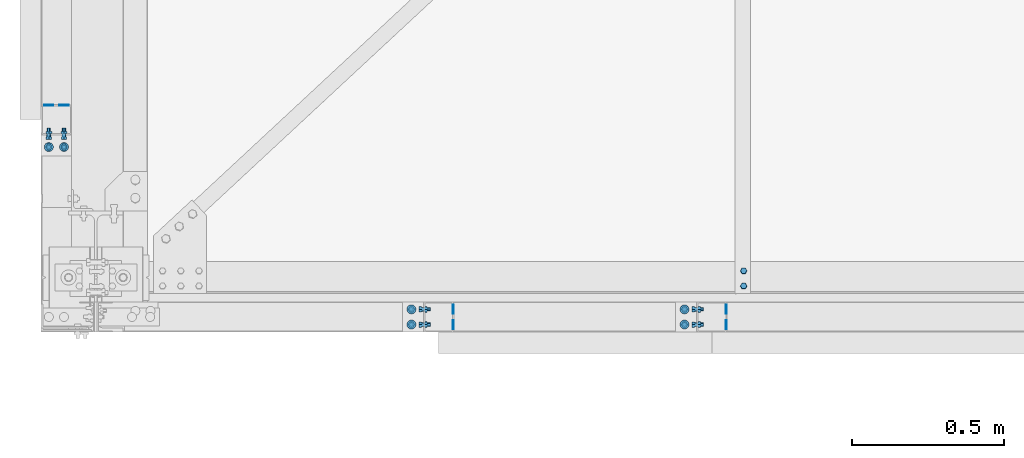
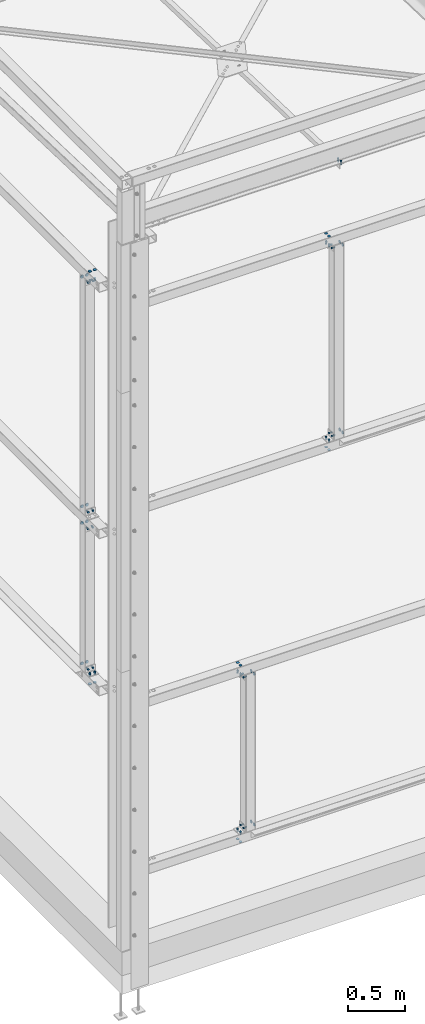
# One storey, part 205 of 362: 29 mechanical fasteners.
"""IFC2X3 building model written with IfcOpenShell, lengths in millimetres."""

from ifc_helpers import new_model, si_unit, frame, frame_2d, origin_with_axes, origin_2d_with_axis, place, context, subcontext, project, spatial, polyline, circle_curve, parameter, trimmed, segment, composite_curve, circle, outline, extrude, source, transform, mapped, material, type_object, element, save


model = new_model("IFC2X3")

# Units and contexts
model_context = context("Model", 3, precision=1e-05, world=origin_with_axes())
body_context = subcontext(model_context, "Body", "Model", "MODEL_VIEW")
ifc_project = project(units=[si_unit("LENGTHUNIT", "METRE", prefix="MILLI"), si_unit("AREAUNIT", "SQUARE_METRE"), si_unit("VOLUMEUNIT", "CUBIC_METRE"), si_unit("MASSUNIT", "GRAM", prefix="KILO"), si_unit("TIMEUNIT", "SECOND"), si_unit("PLANEANGLEUNIT", "RADIAN"), si_unit("SOLIDANGLEUNIT", "STERADIAN"), si_unit("THERMODYNAMICTEMPERATUREUNIT", "DEGREE_CELSIUS"), si_unit("LUMINOUSINTENSITYUNIT", "LUMEN")], contexts=[model_context])

# Site, building, storey
site_placement = place(None, origin_with_axes())
site = spatial("IfcSite", under=ifc_project, at=site_placement, Name="Undefined", CompositionType="ELEMENT")
building_placement = place(site_placement, origin_with_axes())
building = spatial("IfcBuilding", under=site, at=building_placement, Name="Undefined", CompositionType="ELEMENT")
storey_placement = place(building_placement, origin_with_axes())
storey = spatial("IfcBuildingStorey", under=building, at=storey_placement, Name="Undefined", CompositionType="ELEMENT", Elevation=0.0)

# Mechanical fasteners
ifc_material_1 = material(Name="6.8")
mechanical_fastener_type = type_object("IfcMechanicalFastenerType", Name="Bolt assembly")
shared_shape_1 = source(origin_with_axes(), body_context, "Body", "SweptSolid", [
    extrude(circle(Radius=15.0, at=origin_2d_with_axis()), frame((0.0, 0.0, 0.0), z_axis=(0.0, 1.0, 0.0), x_axis=(1.0, 0.0, 0.0)), (0.0, 0.0, 1.0), 4.1),
])
mechanical_fastener_1_placement = place(storey_placement, frame((-129.999996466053, 429.993382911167, 2759.99997765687), z_axis=(1.0, 0.0, 0.0), x_axis=(0.0, 1.0, 0.0)))
element("IfcMechanicalFastener", 1, at=mechanical_fastener_1_placement, inside=storey, type_object=mechanical_fastener_type, material=ifc_material_1, Name="Bolt assembly", NominalDiameter=30.0, NominalLength=4.0, context=body_context, shape_type="MappedRepresentation", body=[
    mapped(shared_shape_1, transform((0.0, 0.0, 25.0))),
    mapped(shared_shape_1, transform((0.0, 0.0, -25.0))),
])
mechanical_fastener_2_placement = place(storey_placement, frame((-129.999996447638, 429.993385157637, 7200.0000088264), z_axis=(-1.0, 0.0, 0.0), x_axis=(0.0, 1.0, 0.0)))
element("IfcMechanicalFastener", 2, at=mechanical_fastener_2_placement, inside=storey, type_object=mechanical_fastener_type, material=ifc_material_1, Name="Bolt assembly", NominalDiameter=30.0, NominalLength=4.0, context=body_context, shape_type="MappedRepresentation", body=[
    mapped(shared_shape_1, transform((0.0, 0.0, -25.0))),
    mapped(shared_shape_1, transform((0.0, 0.0, 25.0))),
])
mechanical_fastener_3_placement = place(storey_placement, frame((1180.0, -130.000008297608, 2760.0), z_axis=(0.0, -1.0, 0.0), x_axis=(0.0, 0.0, 1.0)))
element("IfcMechanicalFastener", 3, at=mechanical_fastener_3_placement, inside=storey, type_object=mechanical_fastener_type, material=ifc_material_1, Name="Bolt assembly", NominalDiameter=30.0, NominalLength=4.0, context=body_context, shape_type="MappedRepresentation", body=[
    mapped(shared_shape_1, transform((0.0, 0.0, 25.0))),
    mapped(shared_shape_1, transform((0.0, 0.0, -25.0))),
])
for number, where, z_axis, x_axis, name in (
    (4, (1180.0, -130.000008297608, 1140.0), (0.0, 1.0, 0.0), (0.0, 0.0, -1.0), "Bolt assembly"),
    (5, (2079.99476747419, -130.000008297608, 5040.0), (0.0, 1.0, 0.0), (0.0, 0.0, -1.0), "Bolt assembly"),
):
    element("IfcMechanicalFastener", number, at=place(storey_placement, frame(where, z_axis=z_axis, x_axis=x_axis)), inside=storey, type_object=mechanical_fastener_type, material=ifc_material_1, Name=name, NominalDiameter=30.0, NominalLength=4.0, context=body_context, shape_type="MappedRepresentation", body=[
        mapped(shared_shape_1, transform((0.0, 0.0, -25.0))),
        mapped(shared_shape_1, transform((0.0, 0.0, 25.0))),
    ])
mechanical_fastener_4_placement = place(storey_placement, frame((2079.99476747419, -130.000008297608, 7060.0), z_axis=(0.0, -1.0, 0.0), x_axis=(0.0, 0.0, 1.0)))
element("IfcMechanicalFastener", 6, at=mechanical_fastener_4_placement, inside=storey, type_object=mechanical_fastener_type, material=ifc_material_1, Name="Bolt assembly", NominalDiameter=30.0, NominalLength=4.0, context=body_context, shape_type="MappedRepresentation", body=[
    mapped(shared_shape_1, transform((0.0, 0.0, 25.0))),
    mapped(shared_shape_1, transform((0.0, 0.0, -25.0))),
])
ifc_material_2 = material(Name="8.8-SB-ZINGUE")
shared_shape_2 = source(origin_with_axes(), body_context, "Body", "SweptSolid", [
    extrude(circle(Radius=7.0, at=origin_2d_with_axis()), frame((0.0, -0.101674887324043, 0.0), z_axis=(0.0, 1.0, 0.0), x_axis=(1.0, 0.0, 0.0)), (0.0, 0.0, 1.0), 4.1),
    extrude(circle(Radius=7.0, at=origin_2d_with_axis()), frame((0.0, -6.90167467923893, 0.0), z_axis=(0.0, 1.0, 0.0), x_axis=(1.0, 0.0, 0.0)), (0.0, 0.0, 1.0), 7.0),
    extrude(outline(polyline([(10.39230484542, 0.0), (5.19615242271, 9.00000000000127), (-5.19615242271, 9.00000000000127), (-10.39230484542, 0.0), (-5.19615242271, -9.00000000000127), (5.19615242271, -9.00000000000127), (10.39230484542, 0.0)])), frame((0.0, -14.9216746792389, 0.0), z_axis=(0.0, 1.0, 0.0), x_axis=(1.0, 0.0, 0.0)), (0.0, 0.0, 1.0), 7.92),
    extrude(circle(Radius=6.0, at=origin_2d_with_axis()), frame((0.0, -7.00167467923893, 0.0), z_axis=(0.0, 1.0, 0.0), x_axis=(1.0, 0.0, 0.0)), (0.0, 0.0, 1.0), 30.0),
    extrude(outline(polyline([(11.5008173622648, 0.0), (5.7504086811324, 9.96000000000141), (-5.7504086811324, 9.96000000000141), (-11.5008173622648, 0.0), (-5.7504086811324, -9.96000000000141), (5.7504086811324, -9.96000000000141), (11.5008173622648, 0.0)])), frame((0.0, 3.99832511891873, 0.0), z_axis=(0.0, 1.0, 0.0), x_axis=(1.0, 0.0, 0.0)), (0.0, 0.0, 1.0), 7.92),
])
mechanical_fastener_5_placement = place(storey_placement, frame((1080.00167488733, -130.000006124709, 2759.99999995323), z_axis=(0.0, 1.0, 0.0), x_axis=(5.58310000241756e-05, -2.99999998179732e-09, 0.99999999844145)))
element("IfcMechanicalFastener", 7, at=mechanical_fastener_5_placement, inside=storey, type_object=mechanical_fastener_type, material=ifc_material_2, Name="Bolt assembly", NominalDiameter=12.0, NominalLength=30.0, context=body_context, shape_type="MappedRepresentation", body=[
    mapped(shared_shape_2, transform((0.0, 0.0, 25.0))),
    mapped(shared_shape_2, transform((0.0, 0.0, -25.0))),
])
for number, where, z_axis, x_axis, name in (
    (8, (1080.00167488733, -130.000006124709, 1140.00000004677), (0.0, -1.0, 0.0), (5.58310000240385e-05, -3.00000033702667e-09, -0.99999999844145), "Bolt assembly"),
    (9, (1979.99644236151, -130.000006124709, 5040.00000004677), (0.0, -1.0, 0.0), (5.58310000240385e-05, -3.00000033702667e-09, -0.99999999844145), "Bolt assembly"),
):
    element("IfcMechanicalFastener", number, at=place(storey_placement, frame(where, z_axis=z_axis, x_axis=x_axis)), inside=storey, type_object=mechanical_fastener_type, material=ifc_material_2, Name=name, NominalDiameter=12.0, NominalLength=30.0, context=body_context, shape_type="MappedRepresentation", body=[
        mapped(shared_shape_2, transform((0.0, 0.0, -25.0))),
        mapped(shared_shape_2, transform((0.0, 0.0, 25.0))),
    ])
mechanical_fastener_6_placement = place(storey_placement, frame((1979.99644236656, -130.000006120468, 7059.99999995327), z_axis=(0.0, 1.0, 0.0), x_axis=(5.58310000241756e-05, -2.99999998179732e-09, 0.99999999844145)))
element("IfcMechanicalFastener", 10, at=mechanical_fastener_6_placement, inside=storey, type_object=mechanical_fastener_type, material=ifc_material_2, Name="Bolt assembly", NominalDiameter=12.0, NominalLength=30.0, context=body_context, shape_type="MappedRepresentation", body=[
    mapped(shared_shape_2, transform((0.0, 0.0, 25.0))),
    mapped(shared_shape_2, transform((0.0, 0.0, -25.0))),
])
shared_shape_3 = source(origin_with_axes(), body_context, "Body", "SweptSolid", [
    extrude(circle(Radius=15.0, at=origin_2d_with_axis()), frame((0.0, -3.99999923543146, 0.0), z_axis=(0.0, 1.0, 0.0), x_axis=(1.0, 0.0, 0.0)), (0.0, 0.0, 1.0), 4.1),
])
for number, where, z_axis, x_axis, name in (
    (11, (-130.000002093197, 569.993395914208, 4589.99997857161), (1.0, 0.0, 0.0), (0.0, 0.0, -1.0), "Bolt assembly"),
    (12, (-130.000002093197, 569.993382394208, 2899.99997845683), (1.0, 0.0, 0.0), (0.0, 0.0, -1.0), "Bolt assembly"),
):
    element("IfcMechanicalFastener", number, at=place(storey_placement, frame(where, z_axis=z_axis, x_axis=x_axis)), inside=storey, type_object=mechanical_fastener_type, material=ifc_material_1, Name=name, NominalDiameter=30.0, NominalLength=4.0, context=body_context, shape_type="MappedRepresentation", body=[
        mapped(shared_shape_3, transform((0.0, 0.0, 25.0))),
        mapped(shared_shape_3, transform((0.0, 0.0, -25.0))),
    ])
for number, where, z_axis, x_axis, name in (
    (13, (-130.000002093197, 569.993382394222, 4410.00002154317), (-1.0, 0.0, 0.0), (0.0, 0.0, 1.0), "Bolt assembly"),
    (14, (-130.000002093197, 569.993384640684, 7060.00000802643), (-1.0, 0.0, 0.0), (0.0, 0.0, 1.0), "Bolt assembly"),
):
    element("IfcMechanicalFastener", number, at=place(storey_placement, frame(where, z_axis=z_axis, x_axis=x_axis)), inside=storey, type_object=mechanical_fastener_type, material=ifc_material_1, Name=name, NominalDiameter=30.0, NominalLength=4.0, context=body_context, shape_type="MappedRepresentation", body=[
        mapped(shared_shape_3, transform((0.0, 0.0, -25.0))),
        mapped(shared_shape_3, transform((0.0, 0.0, 25.0))),
    ])
mechanical_fastener_7_placement = place(storey_placement, frame((1040.000000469, -130.000008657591, 2900.0), z_axis=(0.0, -1.0, 0.0), x_axis=(1.0, 0.0, 0.0)))
element("IfcMechanicalFastener", 15, at=mechanical_fastener_7_placement, inside=storey, type_object=mechanical_fastener_type, material=ifc_material_1, Name="Bolt assembly", NominalDiameter=30.0, NominalLength=4.0, context=body_context, shape_type="MappedRepresentation", body=[
    mapped(shared_shape_3, transform((0.0, 0.0, 25.0))),
    mapped(shared_shape_3, transform((0.0, 0.0, -25.0))),
])
for number, where, z_axis, x_axis, name in (
    (16, (1040.000000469, -130.000008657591, 1000.0), (0.0, 1.0, 0.0), (1.0, 0.0, 0.0), "Bolt assembly"),
    (17, (1939.99476794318, -130.000008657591, 4900.0), (0.0, 1.0, 0.0), (1.0, 0.0, 0.0), "Bolt assembly"),
):
    element("IfcMechanicalFastener", number, at=place(storey_placement, frame(where, z_axis=z_axis, x_axis=x_axis)), inside=storey, type_object=mechanical_fastener_type, material=ifc_material_1, Name=name, NominalDiameter=30.0, NominalLength=4.0, context=body_context, shape_type="MappedRepresentation", body=[
        mapped(shared_shape_3, transform((0.0, 0.0, -25.0))),
        mapped(shared_shape_3, transform((0.0, 0.0, 25.0))),
    ])
mechanical_fastener_8_placement = place(storey_placement, frame((1939.99476794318, -130.000008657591, 7200.0), z_axis=(0.0, -1.0, 0.0), x_axis=(1.0, 0.0, 0.0)))
element("IfcMechanicalFastener", 18, at=mechanical_fastener_8_placement, inside=storey, type_object=mechanical_fastener_type, material=ifc_material_1, Name="Bolt assembly", NominalDiameter=30.0, NominalLength=4.0, context=body_context, shape_type="MappedRepresentation", body=[
    mapped(shared_shape_3, transform((0.0, 0.0, 25.0))),
    mapped(shared_shape_3, transform((0.0, 0.0, -25.0))),
])
shared_shape_4 = source(origin_with_axes(), body_context, "Body", "SweptSolid", [
    extrude(circle(Radius=7.0, at=origin_2d_with_axis()), frame((0.0, -0.100011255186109, 0.0), z_axis=(0.0, 1.0, 0.0), x_axis=(1.0, 0.0, 0.0)), (0.0, 0.0, 1.0), 4.1),
    extrude(circle(Radius=7.0, at=origin_2d_with_axis()), frame((0.0, -6.9, 0.0), z_axis=(0.0, 1.0, 0.0), x_axis=(1.0, 0.0, 0.0)), (0.0, 0.0, 1.0), 7.0),
    extrude(outline(polyline([(10.39230484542, 0.0), (5.19615242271, 9.00000000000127), (-5.19615242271, 9.00000000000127), (-10.39230484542, 0.0), (-5.19615242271, -9.00000000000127), (5.19615242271, -9.00000000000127), (10.39230484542, 0.0)])), frame((0.0, -14.92, 0.0), z_axis=(0.0, 1.0, 0.0), x_axis=(1.0, 0.0, 0.0)), (0.0, 0.0, 1.0), 7.92),
    extrude(circle(Radius=6.0, at=origin_2d_with_axis()), frame((0.0, -7.0, 0.0), z_axis=(0.0, 1.0, 0.0), x_axis=(1.0, 0.0, 0.0)), (0.0, 0.0, 1.0), 30.0),
    extrude(outline(polyline([(11.5008173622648, 0.0), (5.7504086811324, 9.96000000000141), (-5.7504086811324, 9.96000000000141), (-11.5008173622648, 0.0), (-5.7504086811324, -9.96000000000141), (5.7504086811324, -9.96000000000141), (11.5008173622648, 0.0)])), frame((0.0, 4.00000005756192, 0.0), z_axis=(0.0, 1.0, 0.0), x_axis=(1.0, 0.0, 0.0)), (0.0, 0.0, 1.0), 7.92),
])
for number, where, z_axis, x_axis, name in (
    (19, (-130.00000071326, 469.99339591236, 4589.99997857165), (1.0, 0.0, 0.0), (0.0, 0.0, -1.0), "Bolt assembly"),
    (20, (-130.00000071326, 469.99338239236, 2899.99997845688), (1.0, 0.0, 0.0), (0.0, 0.0, -1.0), "Bolt assembly"),
):
    element("IfcMechanicalFastener", number, at=place(storey_placement, frame(where, z_axis=z_axis, x_axis=x_axis)), inside=storey, type_object=mechanical_fastener_type, material=ifc_material_2, Name=name, NominalDiameter=12.0, NominalLength=30.0, context=body_context, shape_type="MappedRepresentation", body=[
        mapped(shared_shape_4, transform((0.0, 0.0, 25.0))),
        mapped(shared_shape_4, transform((0.0, 0.0, -25.0))),
    ])
for number, where, z_axis, x_axis, name in (
    (21, (-130.000000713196, 469.993382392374, 4410.00002154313), (-1.0, 0.0, 0.0), (0.0, 0.0, 1.0), "Bolt assembly"),
    (22, (-130.000000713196, 469.993384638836, 7060.00000802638), (-1.0, 0.0, 0.0), (0.0, 0.0, 1.0), "Bolt assembly"),
):
    element("IfcMechanicalFastener", number, at=place(storey_placement, frame(where, z_axis=z_axis, x_axis=x_axis)), inside=storey, type_object=mechanical_fastener_type, material=ifc_material_2, Name=name, NominalDiameter=12.0, NominalLength=30.0, context=body_context, shape_type="MappedRepresentation", body=[
        mapped(shared_shape_4, transform((0.0, 0.0, -25.0))),
        mapped(shared_shape_4, transform((0.0, 0.0, 25.0))),
    ])
mechanical_fastener_9_placement = place(storey_placement, frame((1039.999999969, -130.000007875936, 2800.0), z_axis=(0.0, -1.0, 0.0), x_axis=(1.0, 0.0, 0.0)))
element("IfcMechanicalFastener", 23, at=mechanical_fastener_9_placement, inside=storey, type_object=mechanical_fastener_type, material=ifc_material_2, Name="Bolt assembly", NominalDiameter=12.0, NominalLength=30.0, context=body_context, shape_type="MappedRepresentation", body=[
    mapped(shared_shape_4, transform((0.0, 0.0, 25.0))),
    mapped(shared_shape_4, transform((0.0, 0.0, -25.0))),
])
for number, where, z_axis, x_axis, name in (
    (24, (1039.999999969, -130.000007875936, 1100.0), (0.0, 1.0, 0.0), (1.0, 0.0, 0.0), "Bolt assembly"),
    (25, (1939.99476744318, -130.000007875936, 5000.0), (0.0, 1.0, 0.0), (1.0, 0.0, 0.0), "Bolt assembly"),
):
    element("IfcMechanicalFastener", number, at=place(storey_placement, frame(where, z_axis=z_axis, x_axis=x_axis)), inside=storey, type_object=mechanical_fastener_type, material=ifc_material_2, Name=name, NominalDiameter=12.0, NominalLength=30.0, context=body_context, shape_type="MappedRepresentation", body=[
        mapped(shared_shape_4, transform((0.0, 0.0, -25.0))),
        mapped(shared_shape_4, transform((0.0, 0.0, 25.0))),
    ])
mechanical_fastener_10_placement = place(storey_placement, frame((1939.99476744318, -130.000007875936, 7100.0), z_axis=(0.0, -1.0, 0.0), x_axis=(1.0, 0.0, 0.0)))
element("IfcMechanicalFastener", 26, at=mechanical_fastener_10_placement, inside=storey, type_object=mechanical_fastener_type, material=ifc_material_2, Name="Bolt assembly", NominalDiameter=12.0, NominalLength=30.0, context=body_context, shape_type="MappedRepresentation", body=[
    mapped(shared_shape_4, transform((0.0, 0.0, 25.0))),
    mapped(shared_shape_4, transform((0.0, 0.0, -25.0))),
])
shared_shape_5 = source(origin_with_axes(), body_context, "Body", "SweptSolid", [
    extrude(circle(Radius=7.0, at=origin_2d_with_axis()), frame((0.0, -8.39309251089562, 0.0), z_axis=(0.0, 1.0, 0.0), x_axis=(1.0, 0.0, 0.0)), (0.0, 0.0, 1.0), 8.5),
    extrude(circle(Radius=7.0, at=origin_2d_with_axis()), frame((0.0, -0.100011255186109, 0.0), z_axis=(0.0, 1.0, 0.0), x_axis=(1.0, 0.0, 0.0)), (0.0, 0.0, 1.0), 5.1),
    extrude(outline(polyline([(10.39230484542, 0.0), (5.19615242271, 9.00000000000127), (-5.19615242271, 9.00000000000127), (-10.39230484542, 0.0), (-5.19615242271, -9.00000000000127), (5.19615242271, -9.00000000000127), (10.39230484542, 0.0)])), frame((0.0, -16.4130925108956, 0.0), z_axis=(0.0, 1.0, 0.0), x_axis=(1.0, 0.0, 0.0)), (0.0, 0.0, 1.0), 7.92),
    extrude(circle(Radius=6.0, at=origin_2d_with_axis()), frame((0.0, -8.49309251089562, 0.0), z_axis=(0.0, 1.0, 0.0), x_axis=(1.0, 0.0, 0.0)), (0.0, 0.0, 1.0), 37.49),
    extrude(outline(polyline([(11.5008173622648, 0.0), (5.7504086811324, 9.96000000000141), (-5.7504086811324, 9.96000000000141), (-11.5008173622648, 0.0), (-5.7504086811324, -9.96000000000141), (5.7504086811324, -9.96000000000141), (11.5008173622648, 0.0)])), frame((0.0, 5.0, 0.0), z_axis=(0.0, 1.0, 0.0), x_axis=(1.0, 0.0, 0.0)), (0.0, 0.0, 1.0), 7.92),
])
mechanical_fastener_11_placement = place(storey_placement, frame((2135.00001266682, -3.14090505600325, 7850.00687397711), z_axis=(0.0, -0.999506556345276, 0.031410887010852), x_axis=(-1.0, 0.0, 0.0)))
element("IfcMechanicalFastener", 27, at=mechanical_fastener_11_placement, inside=storey, type_object=mechanical_fastener_type, material=ifc_material_2, Name="Bolt assembly", NominalDiameter=12.0, NominalLength=37.4931030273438, context=body_context, shape_type="MappedRepresentation", body=[
    mapped(shared_shape_5, transform((0.0, 0.0, -25.0))),
    mapped(shared_shape_5, transform((0.0, 0.0, 25.0))),
])
shared_shape_6 = source(origin_with_axes(), body_context, "Body", "SweptSolid", [
    extrude(circle(Radius=7.0, at=origin_2d_with_axis()), frame((0.0, -3.89999843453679, 0.0), z_axis=(0.0, 1.0, 0.0), x_axis=(1.0, 0.0, 0.0)), (0.0, 0.0, 1.0), 4.0),
    extrude(outline(composite_curve([segment(polyline([(-7.0, 7.0), (7.0, 7.0)]), True, "CONTINUOUS"), segment(trimmed(circle_curve(frame_2d((7.0, 0.0), x_axis=(0.0, 1.0)), 7.0), [parameter(0.0)], [parameter(3.14159265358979)], False, "PARAMETER"), True, "CONTINUOUS"), segment(polyline([(7.0, -7.0), (-7.0, -7.0)]), True, "CONTINUOUS"), segment(trimmed(circle_curve(frame_2d((-7.0, 0.0), x_axis=(0.0, -1.0)), 7.0), [parameter(0.0)], [parameter(3.14159265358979)], False, "PARAMETER"), True, "DISCONTINUOUS")], self_intersect=False)), frame((0.0, -0.100011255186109, 0.0), z_axis=(0.0, 1.0, 0.0), x_axis=(1.0, 0.0, 0.0)), (0.0, 0.0, 1.0), 7.1),
    extrude(outline(polyline([(10.39230484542, 0.0), (5.19615242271, 9.00000000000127), (-5.19615242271, 9.00000000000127), (-10.39230484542, 0.0), (-5.19615242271, -9.00000000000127), (5.19615242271, -9.00000000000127), (10.39230484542, 0.0)])), frame((0.0, -11.9199984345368, 0.0), z_axis=(0.0, 1.0, 0.0), x_axis=(1.0, 0.0, 0.0)), (0.0, 0.0, 1.0), 7.92),
    extrude(circle(Radius=6.0, at=origin_2d_with_axis()), frame((0.0, -3.99999923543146, 0.0), z_axis=(0.0, 1.0, 0.0), x_axis=(1.0, 0.0, 0.0)), (0.0, 0.0, 1.0), 30.0),
    extrude(circle(Radius=10.8, at=origin_2d_with_axis()), frame((0.0, 7.0, 0.0), z_axis=(0.0, 1.0, 0.0), x_axis=(1.0, 0.0, 0.0)), (0.0, 0.0, 1.0), 3.96),
    extrude(outline(polyline([(11.5008173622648, 0.0), (5.7504086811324, 9.96000000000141), (-5.7504086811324, 9.96000000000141), (-11.5008173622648, 0.0), (-5.7504086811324, -9.96000000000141), (5.7504086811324, -9.96000000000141), (11.5008173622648, 0.0)])), frame((0.0, 10.96, 0.0), z_axis=(0.0, 1.0, 0.0), x_axis=(1.0, 0.0, 0.0)), (0.0, 0.0, 1.0), 7.92),
])
mechanical_fastener_12_placement = place(storey_placement, frame((-129.999996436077, 429.993382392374, 2859.99997765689), z_axis=(1.0, 0.0, 0.0), x_axis=(0.0, 1.0, 0.0)))
element("IfcMechanicalFastener", 28, at=mechanical_fastener_12_placement, inside=storey, type_object=mechanical_fastener_type, material=ifc_material_2, Name="Bolt assembly", NominalDiameter=12.0, NominalLength=30.0, context=body_context, shape_type="MappedRepresentation", body=[
    mapped(shared_shape_6, transform((0.0, 0.0, 25.0))),
    mapped(shared_shape_6, transform((0.0, 0.0, -25.0))),
])
shared_shape_7 = source(origin_with_axes(), body_context, "Body", "SweptSolid", [
    extrude(circle(Radius=7.0, at=origin_2d_with_axis()), frame((0.0, -3.89999843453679, 0.0), z_axis=(0.0, 1.0, 0.0), x_axis=(1.0, 0.0, 0.0)), (0.0, 0.0, 1.0), 4.0),
    extrude(outline(composite_curve([segment(polyline([(-7.0, 7.0), (7.0, 7.0)]), True, "CONTINUOUS"), segment(trimmed(circle_curve(frame_2d((7.0, 0.0), x_axis=(0.0, 1.0)), 7.0), [parameter(0.0)], [parameter(3.14159265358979)], False, "PARAMETER"), True, "CONTINUOUS"), segment(polyline([(7.0, -7.0), (-7.0, -7.0)]), True, "CONTINUOUS"), segment(trimmed(circle_curve(frame_2d((-7.0, 0.0), x_axis=(0.0, -1.0)), 7.0), [parameter(0.0)], [parameter(3.14159265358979)], False, "PARAMETER"), True, "DISCONTINUOUS")], self_intersect=False)), frame((0.0, -0.100011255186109, 0.0), z_axis=(0.0, 1.0, 0.0), x_axis=(1.0, 0.0, 0.0)), (0.0, 0.0, 1.0), 7.1),
    extrude(outline(polyline([(10.39230484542, 0.0), (5.19615242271, 9.00000000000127), (-5.19615242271, 9.00000000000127), (-10.39230484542, 0.0), (-5.19615242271, -9.00000000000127), (5.19615242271, -9.00000000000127), (10.39230484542, 0.0)])), frame((0.0, -11.9199984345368, 0.0), z_axis=(0.0, 1.0, 0.0), x_axis=(1.0, 0.0, 0.0)), (0.0, 0.0, 1.0), 7.92),
    extrude(circle(Radius=6.0, at=origin_2d_with_axis()), frame((0.0, -3.99999923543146, 0.0), z_axis=(0.0, 1.0, 0.0), x_axis=(1.0, 0.0, 0.0)), (0.0, 0.0, 1.0), 30.0),
    extrude(circle(Radius=10.8, at=origin_2d_with_axis()), frame((0.0, 7.0, 0.0), z_axis=(0.0, 1.0, 0.0), x_axis=(1.0, 0.0, 0.0)), (0.0, 0.0, 1.0), 3.96),
    extrude(outline(polyline([(11.5008173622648, 0.0), (5.7504086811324, 9.96000000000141), (-5.7504086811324, 9.96000000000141), (-11.5008173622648, 0.0), (-5.7504086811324, -9.96000000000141), (5.7504086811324, -9.96000000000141), (11.5008173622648, 0.0)])), frame((0.0, 10.96, 0.0), z_axis=(0.0, 1.0, 0.0), x_axis=(1.0, 0.0, 0.0)), (0.0, 0.0, 1.0), 7.92),
])
mechanical_fastener_13_placement = place(storey_placement, frame((-129.999996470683, 429.993384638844, 7100.00000882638), z_axis=(-1.0, 0.0, 0.0), x_axis=(0.0, 1.0, 0.0)))
element("IfcMechanicalFastener", 29, at=mechanical_fastener_13_placement, inside=storey, type_object=mechanical_fastener_type, material=ifc_material_2, Name="Bolt assembly", NominalDiameter=12.0, NominalLength=30.0, context=body_context, shape_type="MappedRepresentation", body=[
    mapped(shared_shape_7, transform((0.0, 0.0, -25.0))),
    mapped(shared_shape_7, transform((0.0, 0.0, 25.0))),
])

save(model, "model.ifc")
